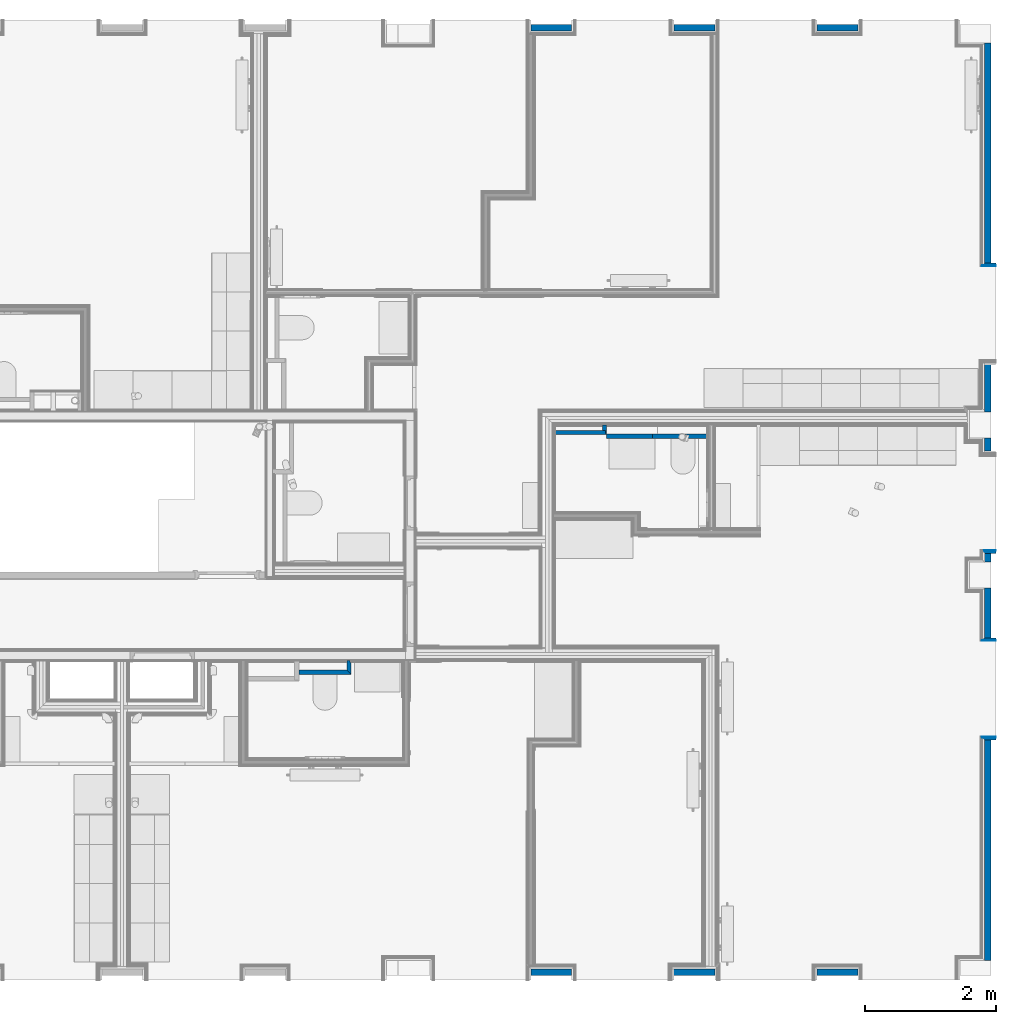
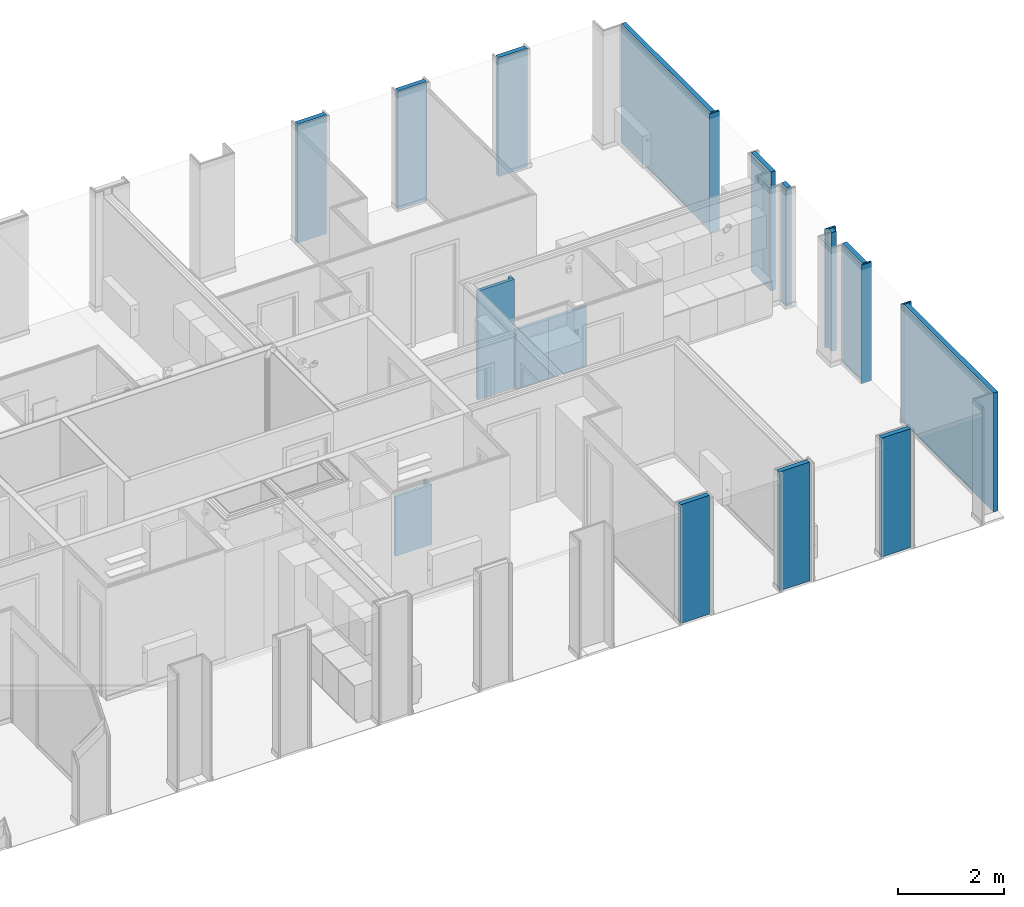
# One storey, part 4 of 85: 26 walls.
"""IFC2X3 building model written with IfcOpenShell, lengths in metres."""

from ifc_helpers import new_model, entity, si_unit, converted_unit, derived_unit, money_unit, direction, frame, frame_2d, origin_with_axes, place, context, subcontext, project, spatial, polyline, rectangle, outline, extrude, material, layer, layer_set, layer_usage, type_object, element, save


model = new_model("IFC2X3")

# Units and contexts
model_context = context("Model", 3, precision=1e-05, world=origin_with_axes(), true_north=direction((0.0, 1.0)))
body_context = subcontext(model_context, "Body", "Model", "MODEL_VIEW", scale=1.0)
ifc_project = project(units=[si_unit("LENGTHUNIT", "METRE"), si_unit("AREAUNIT", "SQUARE_METRE"), si_unit("VOLUMEUNIT", "CUBIC_METRE"), si_unit("ABSORBEDDOSEUNIT", "GRAY"), si_unit("AMOUNTOFSUBSTANCEUNIT", "MOLE"), si_unit("DOSEEQUIVALENTUNIT", "SIEVERT"), si_unit("ELECTRICCAPACITANCEUNIT", "FARAD"), si_unit("ELECTRICCHARGEUNIT", "COULOMB"), si_unit("ELECTRICCONDUCTANCEUNIT", "SIEMENS"), si_unit("ELECTRICCURRENTUNIT", "AMPERE"), si_unit("ELECTRICRESISTANCEUNIT", "OHM"), si_unit("ELECTRICVOLTAGEUNIT", "VOLT"), si_unit("ENERGYUNIT", "JOULE"), si_unit("FORCEUNIT", "NEWTON"), si_unit("FREQUENCYUNIT", "HERTZ"), si_unit("ILLUMINANCEUNIT", "LUX"), si_unit("INDUCTANCEUNIT", "HENRY"), si_unit("LUMINOUSFLUXUNIT", "LUMEN"), si_unit("LUMINOUSINTENSITYUNIT", "CANDELA"), si_unit("MAGNETICFLUXDENSITYUNIT", "TESLA"), si_unit("MAGNETICFLUXUNIT", "WEBER"), si_unit("MASSUNIT", "GRAM"), converted_unit("PLANEANGLEUNIT", "degree", entity("IfcReal", 0.0174532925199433), si_unit("PLANEANGLEUNIT", "RADIAN"), dimensions=[0, 0, 0, 0, 0, 0, 0]), si_unit("POWERUNIT", "WATT"), si_unit("PRESSUREUNIT", "PASCAL"), si_unit("RADIOACTIVITYUNIT", "BECQUEREL"), si_unit("SOLIDANGLEUNIT", "STERADIAN"), si_unit("THERMODYNAMICTEMPERATUREUNIT", "KELVIN"), si_unit("TIMEUNIT", "SECOND"), derived_unit("ACCELERATIONUNIT", [(si_unit("LENGTHUNIT", "METRE"), 1), (si_unit("TIMEUNIT", "SECOND"), -2)]), derived_unit("ANGULARVELOCITYUNIT", [(converted_unit("PLANEANGLEUNIT", "degree", entity("IfcReal", 0.0174532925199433), si_unit("PLANEANGLEUNIT", "RADIAN"), dimensions=[0, 0, 0, 0, 0, 0, 0]), 1), (si_unit("TIMEUNIT", "SECOND"), -1)]), derived_unit("CURVATUREUNIT", [(converted_unit("PLANEANGLEUNIT", "degree", entity("IfcReal", 0.0174532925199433), si_unit("PLANEANGLEUNIT", "RADIAN"), dimensions=[0, 0, 0, 0, 0, 0, 0]), 1), (si_unit("LENGTHUNIT", "METRE"), -1)]), derived_unit("DYNAMICVISCOSITYUNIT", [(si_unit("PRESSUREUNIT", "PASCAL"), 1), (si_unit("TIMEUNIT", "SECOND"), 1)]), derived_unit("HEATFLUXDENSITYUNIT", [(si_unit("POWERUNIT", "WATT"), 1), (si_unit("LENGTHUNIT", "METRE"), -2)]), derived_unit("HEATINGVALUEUNIT", [(si_unit("ENERGYUNIT", "JOULE"), 1), (si_unit("MASSUNIT", "GRAM"), -1)]), derived_unit("INTEGERCOUNTRATEUNIT", [(si_unit("TIMEUNIT", "SECOND"), -1)]), derived_unit("IONCONCENTRATIONUNIT", [(si_unit("MASSUNIT", "GRAM"), 1), (si_unit("VOLUMEUNIT", "CUBIC_METRE"), -1)]), derived_unit("ISOTHERMALMOISTURECAPACITYUNIT", [(si_unit("VOLUMEUNIT", "CUBIC_METRE"), 1), (si_unit("MASSUNIT", "GRAM"), -1)]), derived_unit("KINEMATICVISCOSITYUNIT", [(si_unit("AREAUNIT", "SQUARE_METRE"), 1), (si_unit("TIMEUNIT", "SECOND"), -1)]), derived_unit("LINEARFORCEUNIT", [(si_unit("FORCEUNIT", "NEWTON"), 1), (si_unit("LENGTHUNIT", "METRE"), -1)]), derived_unit("LINEARMOMENTUNIT", [(si_unit("FORCEUNIT", "NEWTON"), 1), (si_unit("LENGTHUNIT", "METRE"), -1)]), derived_unit("LINEARSTIFFNESSUNIT", [(si_unit("FORCEUNIT", "NEWTON"), 1), (si_unit("LENGTHUNIT", "METRE"), -1)]), derived_unit("LINEARVELOCITYUNIT", [(si_unit("LENGTHUNIT", "METRE"), 1), (si_unit("TIMEUNIT", "SECOND"), -1)]), derived_unit("LUMINOUSINTENSITYDISTRIBUTIONUNIT", [(si_unit("LUMINOUSINTENSITYUNIT", "CANDELA"), 1), (si_unit("LUMINOUSFLUXUNIT", "LUMEN"), -1)]), derived_unit("MASSDENSITYUNIT", [(si_unit("MASSUNIT", "GRAM"), 1), (si_unit("VOLUMEUNIT", "CUBIC_METRE"), -1)]), derived_unit("MASSFLOWRATEUNIT", [(si_unit("MASSUNIT", "GRAM"), 1), (si_unit("TIMEUNIT", "SECOND"), -1)]), derived_unit("MASSPERLENGTHUNIT", [(si_unit("MASSUNIT", "GRAM"), 1), (si_unit("LENGTHUNIT", "METRE"), -1)]), derived_unit("MODULUSOFELASTICITYUNIT", [(si_unit("FORCEUNIT", "NEWTON"), 1), (si_unit("AREAUNIT", "SQUARE_METRE"), -1)]), derived_unit("MODULUSOFLINEARSUBGRADEREACTIONUNIT", [(si_unit("FORCEUNIT", "NEWTON"), 1), (si_unit("LENGTHUNIT", "METRE"), -2)]), derived_unit("MODULUSOFROTATIONALSUBGRADEREACTIONUNIT", [(si_unit("FORCEUNIT", "NEWTON"), 1), (si_unit("LENGTHUNIT", "METRE"), 1)]), derived_unit("MODULUSOFSUBGRADEREACTIONUNIT", [(si_unit("FORCEUNIT", "NEWTON"), 1), (si_unit("VOLUMEUNIT", "CUBIC_METRE"), -1)]), derived_unit("MOISTUREDIFFUSIVITYUNIT", [(si_unit("VOLUMEUNIT", "CUBIC_METRE"), 1), (si_unit("TIMEUNIT", "SECOND"), -1)]), derived_unit("MOLECULARWEIGHTUNIT", [(si_unit("MASSUNIT", "GRAM"), 1), (si_unit("AMOUNTOFSUBSTANCEUNIT", "MOLE"), -1)]), derived_unit("PLANARFORCEUNIT", [(si_unit("FORCEUNIT", "NEWTON"), 1), (si_unit("LENGTHUNIT", "METRE"), -2)]), derived_unit("ROTATIONALFREQUENCYUNIT", [(si_unit("TIMEUNIT", "SECOND"), -1)]), derived_unit("ROTATIONALMASSUNIT", [(si_unit("MASSUNIT", "GRAM"), 1), (si_unit("LENGTHUNIT", "METRE"), 2)]), derived_unit("ROTATIONALSTIFFNESSUNIT", [(si_unit("FORCEUNIT", "NEWTON"), 1), (si_unit("LENGTHUNIT", "METRE"), 1), (converted_unit("PLANEANGLEUNIT", "degree", entity("IfcReal", 0.0174532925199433), si_unit("PLANEANGLEUNIT", "RADIAN"), dimensions=[0, 0, 0, 0, 0, 0, 0]), -1)]), derived_unit("SECTIONAREAINTEGRALUNIT", [(si_unit("LENGTHUNIT", "METRE"), 5)]), derived_unit("SECTIONMODULUSUNIT", [(si_unit("LENGTHUNIT", "METRE"), 3)]), derived_unit("SHEARMODULUSUNIT", [(si_unit("FORCEUNIT", "NEWTON"), 1), (si_unit("AREAUNIT", "SQUARE_METRE"), -1)]), derived_unit("SOUNDPOWERUNIT", [(si_unit("ENERGYUNIT", "JOULE"), 1), (si_unit("TIMEUNIT", "SECOND"), -1)]), derived_unit("SPECIFICHEATCAPACITYUNIT", [(si_unit("FORCEUNIT", "NEWTON"), 1), (si_unit("MASSUNIT", "GRAM"), -1), (si_unit("THERMODYNAMICTEMPERATUREUNIT", "KELVIN"), -1)]), derived_unit("TEMPERATUREGRADIENTUNIT", [(si_unit("THERMODYNAMICTEMPERATUREUNIT", "KELVIN"), 1), (si_unit("LENGTHUNIT", "METRE"), -1)]), derived_unit("THERMALADMITTANCEUNIT", [(si_unit("POWERUNIT", "WATT"), 1), (si_unit("AREAUNIT", "SQUARE_METRE"), -1), (si_unit("THERMODYNAMICTEMPERATUREUNIT", "KELVIN"), -1)]), derived_unit("THERMALCONDUCTANCEUNIT", [(si_unit("POWERUNIT", "WATT"), 1), (si_unit("LENGTHUNIT", "METRE"), -1), (si_unit("THERMODYNAMICTEMPERATUREUNIT", "KELVIN"), -1)]), derived_unit("THERMALEXPANSIONCOEFFICIENTUNIT", [(si_unit("THERMODYNAMICTEMPERATUREUNIT", "KELVIN"), -1)]), derived_unit("THERMALRESISTANCEUNIT", [(si_unit("AREAUNIT", "SQUARE_METRE"), 1), (si_unit("POWERUNIT", "WATT"), -1)]), derived_unit("THERMALTRANSMITTANCEUNIT", [(si_unit("POWERUNIT", "WATT"), 1), (si_unit("AREAUNIT", "SQUARE_METRE"), -1), (si_unit("THERMODYNAMICTEMPERATUREUNIT", "KELVIN"), -1)]), derived_unit("TORQUEUNIT", [(si_unit("FORCEUNIT", "NEWTON"), 1), (si_unit("LENGTHUNIT", "METRE"), 1)]), derived_unit("VAPORPERMEABILITYUNIT", [(si_unit("MASSUNIT", "GRAM"), 1), (si_unit("TIMEUNIT", "SECOND"), -1)]), derived_unit("VOLUMETRICFLOWRATEUNIT", [(si_unit("VOLUMEUNIT", "CUBIC_METRE"), 1), (si_unit("TIMEUNIT", "SECOND"), -1)]), derived_unit("WARPINGCONSTANTUNIT", [(si_unit("LENGTHUNIT", "METRE"), 6)]), derived_unit("WARPINGMOMENTUNIT", [(si_unit("FORCEUNIT", "NEWTON"), 1), (si_unit("LENGTHUNIT", "METRE"), 2)]), money_unit("GBP")], contexts=[model_context])

# Site, building, storey
site_placement = place(None, origin_with_axes())
site = spatial("IfcSite", under=ifc_project, at=site_placement, Name="Site", CompositionType="ELEMENT")
building_placement = place(site_placement, origin_with_axes())
building = spatial("IfcBuilding", under=site, at=building_placement, Name="Building01", CompositionType="ELEMENT")
storey_placement = place(building_placement, frame((0.0, 0.0, 12.13), z_axis=(0.0, 0.0, 1.0), x_axis=(1.0, 0.0, 0.0)))
storey = spatial("IfcBuildingStorey", under=building, at=storey_placement, Name="3F", CompositionType="ELEMENT", Elevation=12.13)

# Walls
ifc_material_1 = material(Name="A_BSUK_WallsExternal_Block")
ifc_layer_1 = layer(ifc_material_1, 0.1, ventilated=False)
ifc_layer_set_1 = layer_set([ifc_layer_1])
ifc_layer_usage_1 = layer_usage(ifc_layer_set_1, "AXIS2", "POSITIVE", 0.0)
wall_type_1 = type_object("IfcWallType", Name="A-Walls-ExternalBlock", PredefinedType="NOTDEFINED")
wall_1_placement = place(storey_placement, frame((20.387, 0.27, 0.0), z_axis=(0.0, 0.0, 1.0), x_axis=(-1.0, 0.0, 0.0)))
element("IfcWallStandardCase", 1, at=wall_1_placement, inside=storey, type_object=wall_type_1, material=ifc_layer_usage_1, Name="A-Walls-ExternalBlock", ObjectType="A-Walls-ExternalBlock", context=body_context, shape_type="SweptSolid", body=[
    extrude(rectangle(XDim=0.624, YDim=0.1, at=frame_2d((0.312, 0.05), x_axis=(-1.0, 0.0))), origin_with_axes(), (0.0, 0.0, 1.0), 2.74),
])
wall_2_placement = place(storey_placement, frame((22.577, 0.27, 0.0), z_axis=(0.0, 0.0, 1.0), x_axis=(-1.0, 0.0, 0.0)))
element("IfcWallStandardCase", 2, at=wall_2_placement, inside=storey, type_object=wall_type_1, material=ifc_layer_usage_1, Name="A-Walls-ExternalBlock", ObjectType="A-Walls-ExternalBlock", context=body_context, shape_type="SweptSolid", body=[
    extrude(rectangle(XDim=0.66, YDim=0.1, at=frame_2d((0.33, 0.05), x_axis=(-1.0, 0.0))), origin_with_axes(), (0.0, 0.0, 1.0), 2.74),
])
wall_3_placement = place(storey_placement, frame((24.767, 0.27, 0.0), z_axis=(0.0, 0.0, 1.0), x_axis=(-1.0, 0.0, 0.0)))
element("IfcWallStandardCase", 3, at=wall_3_placement, inside=storey, type_object=wall_type_1, material=ifc_layer_usage_1, Name="A-Walls-ExternalBlock", ObjectType="A-Walls-ExternalBlock", context=body_context, shape_type="SweptSolid", body=[
    extrude(rectangle(XDim=0.624, YDim=0.1, at=frame_2d((0.312, 0.05), x_axis=(-1.0, 0.0))), origin_with_axes(), (0.0, 0.0, 1.0), 2.74),
])
for number, where, z_axis, x_axis, name in (
    (4, (19.763, 14.63, 0.0), (0.0, 0.0, 1.0), (1.0, 0.0, 0.0), "A-Walls-ExternalBlock"),
    (5, (21.953, 14.63, 0.0), (0.0, 0.0, 1.0), (1.0, 0.0, 0.0), "A-Walls-ExternalBlock"),
    (6, (24.143, 14.63, 0.0), (0.0, 0.0, 1.0), (1.0, 0.0, 0.0), "A-Walls-ExternalBlock"),
):
    element("IfcWallStandardCase", number, at=place(storey_placement, frame(where, z_axis=z_axis, x_axis=x_axis)), inside=storey, type_object=wall_type_1, material=ifc_layer_usage_1, Name=name, ObjectType="A-Walls-ExternalBlock", context=body_context, shape_type="SweptSolid", body=[
        extrude(rectangle(XDim=0.624, YDim=0.1, at=frame_2d((0.312, 0.05), x_axis=(1.0, 0.0))), origin_with_axes(), (0.0, 0.0, 1.0), 2.74),
    ])
wall_4_placement = place(storey_placement, frame((26.71, 3.77418, 0.0), z_axis=(0.0, 0.0, 1.0), x_axis=(0.0, -1.0, 0.0)))
element("IfcWallStandardCase", 7, at=wall_4_placement, inside=storey, type_object=wall_type_1, material=ifc_layer_usage_1, Name="A-Walls-ExternalBlock", ObjectType="A-Walls-ExternalBlock", context=body_context, shape_type="SweptSolid", body=[
    extrude(rectangle(XDim=3.37418, YDim=0.1, at=frame_2d((1.68709, 0.05), x_axis=(1.0, 0.0))), origin_with_axes(), (0.0, 0.0, 1.0), 2.74),
])
wall_5_placement = place(storey_placement, frame((26.71, 6.634326, 0.0), z_axis=(0.0, 0.0, 1.0), x_axis=(0.0, -1.0, 0.0)))
element("IfcWallStandardCase", 8, at=wall_5_placement, inside=storey, type_object=wall_type_1, material=ifc_layer_usage_1, Name="A-Walls-ExternalBlock", ObjectType="A-Walls-ExternalBlock", context=body_context, shape_type="SweptSolid", body=[
    extrude(rectangle(XDim=0.134326, YDim=0.1, at=frame_2d((0.067163, 0.05), x_axis=(1.0, 0.0))), origin_with_axes(), (0.0, 0.0, 1.0), 2.74),
])
wall_6_placement = place(storey_placement, frame((26.71, 9.55018, 0.0), z_axis=(0.0, 0.0, 1.0), x_axis=(0.0, -1.0, 0.0)))
element("IfcWallStandardCase", 9, at=wall_6_placement, inside=storey, type_object=wall_type_1, material=ifc_layer_usage_1, Name="A-Walls-ExternalBlock", ObjectType="A-Walls-ExternalBlock", context=body_context, shape_type="SweptSolid", body=[
    extrude(rectangle(XDim=0.1, YDim=0.75018, at=frame_2d((0.37509, 0.05), x_axis=(0.0, -1.0))), origin_with_axes(), (0.0, 0.0, 1.0), 2.74),
])
wall_7_placement = place(storey_placement, frame((26.71, 8.4, 0.0), z_axis=(0.0, 0.0, 1.0), x_axis=(0.0, -1.0, 0.0)))
element("IfcWallStandardCase", 10, at=wall_7_placement, inside=storey, type_object=wall_type_1, material=ifc_layer_usage_1, Name="A-Walls-ExternalBlock", ObjectType="A-Walls-ExternalBlock", context=body_context, shape_type="SweptSolid", body=[
    extrude(rectangle(XDim=0.199674, YDim=0.1, at=frame_2d((0.099837, 0.05), x_axis=(-1.0, 0.0))), origin_with_axes(), (0.0, 0.0, 1.0), 2.74),
])
wall_8_placement = place(storey_placement, frame((26.71, 14.45, 0.0), z_axis=(0.0, 0.0, 1.0), x_axis=(0.0, -1.0, 0.0)))
element("IfcWallStandardCase", 11, at=wall_8_placement, inside=storey, type_object=wall_type_1, material=ifc_layer_usage_1, Name="A-Walls-ExternalBlock", ObjectType="A-Walls-ExternalBlock", context=body_context, shape_type="SweptSolid", body=[
    extrude(rectangle(XDim=3.36982, YDim=0.1, at=frame_2d((1.68491, 0.05), x_axis=(1.0, 0.0))), origin_with_axes(), (0.0, 0.0, 1.0), 2.74),
])
wall_9_placement = place(storey_placement, frame((26.71, 6.1, 0.0), z_axis=(0.0, 0.0, 1.0), x_axis=(0.0, -1.0, 0.0)))
element("IfcWallStandardCase", 12, at=wall_9_placement, inside=storey, type_object=wall_type_1, material=ifc_layer_usage_1, Name="A-Walls-ExternalBlock", ObjectType="A-Walls-ExternalBlock", context=body_context, shape_type="SweptSolid", body=[
    extrude(rectangle(XDim=0.75982, YDim=0.1, at=frame_2d((0.37991, 0.05), x_axis=(1.0, 0.0))), origin_with_axes(), (0.0, 0.0, 1.0), 2.74),
])
ifc_material_2 = material(Name="A_BSUK_Walls_Timber")
ifc_layer_2 = layer(ifc_material_2, 0.015, ventilated=False)
ifc_material_3 = material(Name="A_BSUK_OpeningsClearance")
ifc_layer_3 = layer(ifc_material_3, 0.05, ventilated=False)
ifc_layer_set_2 = layer_set([ifc_layer_2, ifc_layer_3])
ifc_layer_usage_2 = layer_usage(ifc_layer_set_2, "AXIS2", "POSITIVE", 0.0)
wall_type_2 = type_object("IfcWallType", Name="SHE_A-Walls_Type05c_PreWallShell_65mm", PredefinedType="NOTDEFINED")
wall_10_placement = place(storey_placement, frame((16.9425, 4.845, 0.0), z_axis=(0.0, 0.0, 1.0), x_axis=(0.0, 1.0, 0.0)))
element("IfcWallStandardCase", 13, at=wall_10_placement, inside=storey, type_object=wall_type_2, material=ifc_layer_usage_2, Name="5C", ObjectType="SHE_A-Walls_Type05c_PreWallShell_65mm", context=body_context, shape_type="SweptSolid", body=[
    extrude(outline(polyline([(0.12, -0.05), (0.15, -0.05), (0.15, 0.0), (0.0, 0.0), (-0.065, -0.065), (0.12, -0.065), (0.12, -0.05)])), origin_with_axes(), (0.0, 0.0, 1.0), 1.375),
])
wall_11_placement = place(storey_placement, frame((16.2075, 4.845, 0.0), z_axis=(0.0, 0.0, 1.0), x_axis=(1.0, 0.0, 0.0)))
element("IfcWallStandardCase", 14, at=wall_11_placement, inside=storey, type_object=wall_type_2, material=ifc_layer_usage_2, Name="5C", ObjectType="SHE_A-Walls_Type05c_PreWallShell_65mm", context=body_context, shape_type="SweptSolid", body=[
    extrude(outline(polyline([(0.735, 0.0), (0.0, 0.0), (0.0, -0.065), (0.8, -0.065), (0.735, 0.0)])), origin_with_axes(), (0.0, 0.0, 1.0), 1.375),
])
ifc_layer_set_3 = layer_set([ifc_layer_3, ifc_layer_2])
ifc_layer_usage_3 = layer_usage(ifc_layer_set_3, "AXIS2", "POSITIVE", 0.0)
wall_12_placement = place(storey_placement, frame((20.907661, 8.515, 0.0), z_axis=(0.0, 0.0, 1.0), x_axis=(-1.0, 0.0, 0.0)))
element("IfcWallStandardCase", 15, at=wall_12_placement, inside=storey, type_object=wall_type_2, material=ifc_layer_usage_3, Name="5C", ObjectType="SHE_A-Walls_Type05c_PreWallShell_65mm", context=body_context, shape_type="SweptSolid", body=[
    extrude(outline(polyline([(0.785, 0.065), (-0.015, 0.065), (-0.015, 0.05), (0.0, 0.05), (0.0, 0.0), (0.785, 0.0), (0.785, 0.065)])), origin_with_axes(), (0.0, 0.0, 1.0), 2.51),
])
wall_13_placement = place(storey_placement, frame((20.857661, 8.595, 0.0), z_axis=(0.0, 0.0, 1.0), x_axis=(0.0, -1.0, 0.0)))
element("IfcWallStandardCase", 16, at=wall_13_placement, inside=storey, type_object=wall_type_2, material=ifc_layer_usage_3, Name="5C", ObjectType="SHE_A-Walls_Type05c_PreWallShell_65mm", context=body_context, shape_type="SweptSolid", body=[
    extrude(outline(polyline([(0.08, 0.05), (0.13, 0.05), (0.13, 0.065), (0.0, 0.065), (0.0, 0.0), (0.08, 0.0), (0.08, 0.05)])), origin_with_axes(), (0.0, 0.0, 1.0), 2.51),
])
wall_14_placement = place(storey_placement, frame((21.626659, 8.460003, 0.0), z_axis=(0.0, 0.0, 1.0), x_axis=(-1.0, 0.0, 0.0)))
element("IfcWallStandardCase", 17, at=wall_14_placement, inside=storey, type_object=wall_type_2, material=ifc_layer_usage_3, Name="5C", ObjectType="SHE_A-Walls_Type05c_PreWallShell_65mm", context=body_context, shape_type="SweptSolid", body=[
    extrude(rectangle(XDim=0.703998, YDim=0.065, at=frame_2d((0.351999, 0.0325), x_axis=(-1.0, 0.0))), origin_with_axes(), (0.0, 0.0, 1.0), 1.375),
])
wall_15_placement = place(storey_placement, frame((22.461661, 8.46, 0.0), z_axis=(0.0, 0.0, 1.0), x_axis=(-1.0, 0.0, 0.0)))
element("IfcWallStandardCase", 18, at=wall_15_placement, inside=storey, type_object=wall_type_2, material=ifc_layer_usage_3, Name="5C", ObjectType="SHE_A-Walls_Type05c_PreWallShell_65mm", context=body_context, shape_type="SweptSolid", body=[
    extrude(rectangle(XDim=0.835002, YDim=0.065, at=frame_2d((0.417501, 0.0325), x_axis=(1.0, 0.0))), origin_with_axes(), (0.0, 0.0, 1.0), 1.375),
])
ifc_material_4 = material(Name="A_BSUK_WallInternal_Finishes_Plasterboard")
ifc_layer_4 = layer(ifc_material_4, 0.013, ventilated=False)
ifc_layer_set_4 = layer_set([ifc_layer_4])
ifc_layer_usage_4 = layer_usage(ifc_layer_set_4, "AXIS2", "POSITIVE", 0.0)
wall_type_3 = type_object("IfcWallType", Name="default", PredefinedType="NOTDEFINED")
wall_16_placement = place(storey_placement, frame((26.675, 3.80918, 0.0), z_axis=(0.0, 0.0, 1.0), x_axis=(1.0, 0.0, 0.0)))
element("IfcWallStandardCase", 19, at=wall_16_placement, inside=storey, type_object=wall_type_3, material=ifc_layer_usage_4, Name="default", ObjectType="default", context=body_context, shape_type="SweptSolid", body=[
    extrude(outline(polyline([(-0.013, 0.013), (0.0, 0.0), (0.205, 0.0), (0.205, 0.013), (-0.013, 0.013)])), origin_with_axes(), (0.0, 0.0, 1.0), 2.74),
])
ifc_material_5 = material(Name="A_BSUK_Insulation")
ifc_layer_5 = layer(ifc_material_5, 0.036, ventilated=False)
ifc_layer_set_5 = layer_set([ifc_layer_5])
ifc_layer_usage_5 = layer_usage(ifc_layer_set_5, "AXIS2", "POSITIVE", 0.0)
wall_17_placement = place(storey_placement, frame((26.71, 3.77418, 0.0), z_axis=(0.0, 0.0, 1.0), x_axis=(1.0, 0.0, 0.0)))
element("IfcWallStandardCase", 20, at=wall_17_placement, inside=storey, type_object=wall_type_3, material=ifc_layer_usage_5, Name="default", ObjectType="default", context=body_context, shape_type="SweptSolid", body=[
    extrude(outline(polyline([(-0.036, 0.036), (0.0, 0.0), (0.17, 0.0), (0.17, 0.036), (-0.036, 0.036)])), origin_with_axes(), (0.0, 0.0, 1.0), 2.74),
])
wall_18_placement = place(storey_placement, frame((26.88, 5.30518, 0.0), z_axis=(0.0, 0.0, 1.0), x_axis=(-1.0, 0.0, 0.0)))
element("IfcWallStandardCase", 21, at=wall_18_placement, inside=storey, type_object=wall_type_3, material=ifc_layer_usage_4, Name="default", ObjectType="default", context=body_context, shape_type="SweptSolid", body=[
    extrude(outline(polyline([(0.218, 0.013), (0.0, 0.013), (0.0, 0.0), (0.205, 0.0), (0.218, 0.013)])), origin_with_axes(), (0.0, 0.0, 1.0), 2.74),
])
wall_19_placement = place(storey_placement, frame((26.88, 5.34018, 0.0), z_axis=(0.0, 0.0, 1.0), x_axis=(-1.0, 0.0, 0.0)))
element("IfcWallStandardCase", 22, at=wall_19_placement, inside=storey, type_object=wall_type_3, material=ifc_layer_usage_5, Name="default", ObjectType="default", context=body_context, shape_type="SweptSolid", body=[
    extrude(outline(polyline([(0.206, 0.036), (0.0, 0.036), (0.0, 0.0), (0.17, 0.0), (0.206, 0.036)])), origin_with_axes(), (0.0, 0.0, 1.0), 2.74),
])
wall_20_placement = place(storey_placement, frame((26.675, 6.669326, 0.0), z_axis=(0.0, 0.0, 1.0), x_axis=(1.0, 0.0, 0.0)))
element("IfcWallStandardCase", 23, at=wall_20_placement, inside=storey, type_object=wall_type_3, material=ifc_layer_usage_4, Name="default", ObjectType="default", context=body_context, shape_type="SweptSolid", body=[
    extrude(outline(polyline([(-0.013, 0.013), (0.0, 0.0), (0.205, 0.0), (0.205, 0.013), (-0.013, 0.013)])), origin_with_axes(), (0.0, 0.0, 1.0), 2.74),
])
wall_21_placement = place(storey_placement, frame((26.71, 6.634326, 0.0), z_axis=(0.0, 0.0, 1.0), x_axis=(1.0, 0.0, 0.0)))
element("IfcWallStandardCase", 24, at=wall_21_placement, inside=storey, type_object=wall_type_3, material=ifc_layer_usage_5, Name="default", ObjectType="default", context=body_context, shape_type="SweptSolid", body=[
    extrude(outline(polyline([(-0.036, 0.036), (0.0, 0.0), (0.17, 0.0), (0.17, 0.036), (-0.036, 0.036)])), origin_with_axes(), (0.0, 0.0, 1.0), 2.74),
])
wall_22_placement = place(storey_placement, frame((26.88, 11.04518, 0.0), z_axis=(0.0, 0.0, 1.0), x_axis=(-1.0, 0.0, 0.0)))
element("IfcWallStandardCase", 25, at=wall_22_placement, inside=storey, type_object=wall_type_3, material=ifc_layer_usage_4, Name="default", ObjectType="default", context=body_context, shape_type="SweptSolid", body=[
    extrude(outline(polyline([(0.218, 0.013), (0.0, 0.013), (0.0, 0.0), (0.205, 0.0), (0.218, 0.013)])), origin_with_axes(), (0.0, 0.0, 1.0), 2.74),
])
wall_23_placement = place(storey_placement, frame((26.88, 11.08018, 0.0), z_axis=(0.0, 0.0, 1.0), x_axis=(-1.0, 0.0, 0.0)))
element("IfcWallStandardCase", 26, at=wall_23_placement, inside=storey, type_object=wall_type_3, material=ifc_layer_usage_5, Name="default", ObjectType="default", context=body_context, shape_type="SweptSolid", body=[
    extrude(outline(polyline([(0.206, 0.036), (0.0, 0.036), (0.0, 0.0), (0.17, 0.0), (0.206, 0.036)])), origin_with_axes(), (0.0, 0.0, 1.0), 2.74),
])

save(model, "model.ifc")
